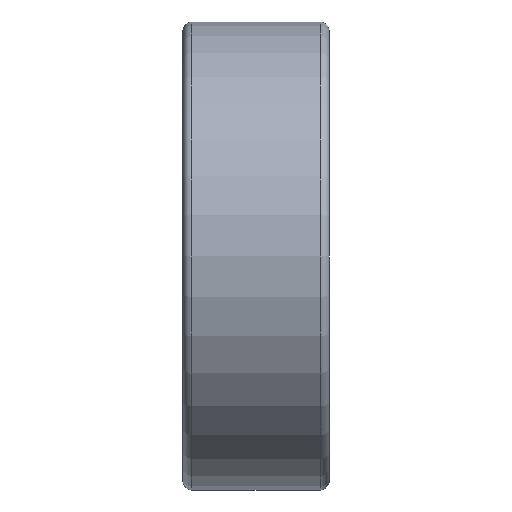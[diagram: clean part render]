
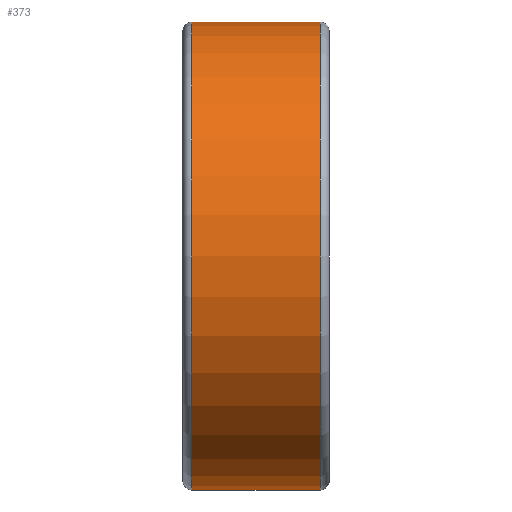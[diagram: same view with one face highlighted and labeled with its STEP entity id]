
A CAD part, front view. The second image highlights one B-rep face of the part: STEP entity #373.
In plain terms, the highlighted cylindrical face has radius 8 mm (diameter 16 mm), a full revolution.
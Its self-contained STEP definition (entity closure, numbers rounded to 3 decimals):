
#134=CYLINDRICAL_SURFACE('',#553,8.);
#190=EDGE_LOOP('',(#258));
#191=EDGE_LOOP('',(#259));
#258=ORIENTED_EDGE('',*,*,#300,.F.);
#259=ORIENTED_EDGE('',*,*,#298,.T.);
#298=EDGE_CURVE('',#502,#502,#318,.T.);
#300=EDGE_CURVE('',#504,#504,#320,.T.);
#318=CIRCLE('',#549,8.);
#320=CIRCLE('',#552,8.);
#373=ADVANCED_FACE('',(#448,#449),#134,.T.);
#448=FACE_BOUND('',#190,.T.);
#449=FACE_BOUND('',#191,.T.);
#502=VERTEX_POINT('',#1560);
#504=VERTEX_POINT('',#1565);
#549=AXIS2_PLACEMENT_3D('',#1559,#643,#644);
#552=AXIS2_PLACEMENT_3D('',#1564,#649,#650);
#553=AXIS2_PLACEMENT_3D('',#1566,#651,#652);
#643=DIRECTION('',(1.,0.,0.));
#644=DIRECTION('',(0.,0.,-1.));
#649=DIRECTION('',(1.,0.,0.));
#650=DIRECTION('',(0.,0.,-1.));
#651=DIRECTION('',(1.,0.,0.));
#652=DIRECTION('',(0.,0.,-1.));
#1559=CARTESIAN_POINT('',(-2.2,0.,0.));
#1560=CARTESIAN_POINT('',(-2.2,0.,-8.));
#1564=CARTESIAN_POINT('',(2.2,0.,0.));
#1565=CARTESIAN_POINT('',(2.2,0.,-8.));
#1566=CARTESIAN_POINT('',(-2.2,0.,0.));
